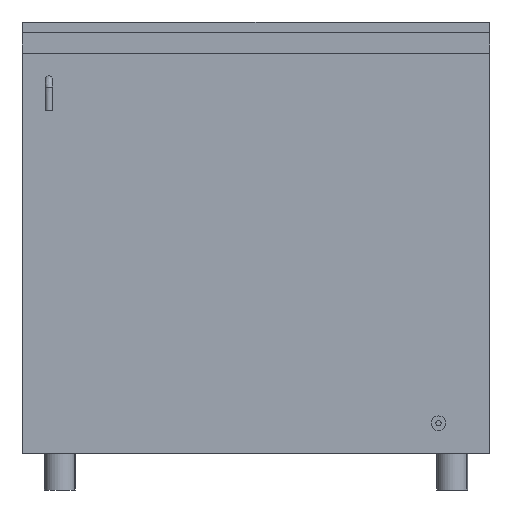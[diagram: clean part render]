
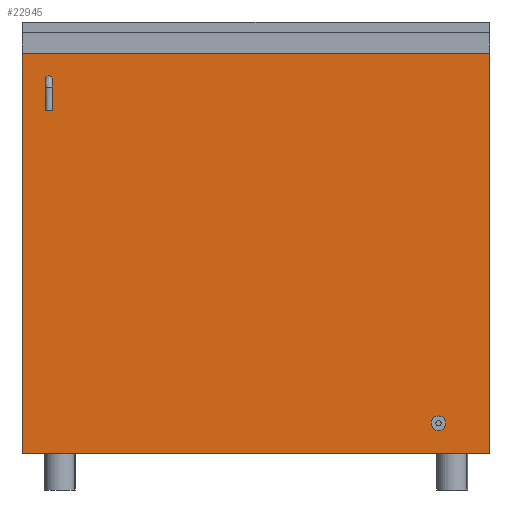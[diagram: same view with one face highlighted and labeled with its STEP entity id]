
A CAD part, left-side view. The second image highlights one B-rep face of the part: STEP entity #22945.
In plain terms, the highlighted planar face has unit normal (-1, 0, 0).
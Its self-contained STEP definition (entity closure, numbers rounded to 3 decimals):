
#2461=LINE('',#52559,#4366);
#2472=LINE('',#52654,#4377);
#2473=LINE('',#52656,#4378);
#2474=LINE('',#52657,#4379);
#4366=VECTOR('',#30176,1000.);
#4377=VECTOR('',#30257,1000.);
#4378=VECTOR('',#30260,1000.);
#4379=VECTOR('',#30261,1000.);
#5005=CIRCLE('',#25381,14.);
#10399=ORIENTED_EDGE('',*,*,#14646,.F.);
#10400=ORIENTED_EDGE('',*,*,#14645,.F.);
#10401=ORIENTED_EDGE('',*,*,#14647,.T.);
#10402=ORIENTED_EDGE('',*,*,#14608,.T.);
#10403=ORIENTED_EDGE('',*,*,#14648,.T.);
#10404=ORIENTED_EDGE('',*,*,#14649,.T.);
#10405=ORIENTED_EDGE('',*,*,#14650,.T.);
#10406=ORIENTED_EDGE('',*,*,#14651,.F.);
#14608=EDGE_CURVE('',#17170,#17169,#2461,.T.);
#14645=EDGE_CURVE('',#17194,#17193,#2472,.T.);
#14646=EDGE_CURVE('',#17193,#17169,#2473,.T.);
#14647=EDGE_CURVE('',#17194,#17170,#2474,.T.);
#14648=EDGE_CURVE('',#17195,#17196,#18263,.T.);
#14649=EDGE_CURVE('',#17196,#17197,#18264,.T.);
#14650=EDGE_CURVE('',#17197,#17195,#18265,.T.);
#14651=EDGE_CURVE('',#17198,#17198,#5005,.T.);
#17169=VERTEX_POINT('',#52558);
#17170=VERTEX_POINT('',#52560);
#17193=VERTEX_POINT('',#52651);
#17194=VERTEX_POINT('',#52653);
#17195=VERTEX_POINT('',#52665);
#17196=VERTEX_POINT('',#52666);
#17197=VERTEX_POINT('',#52672);
#17198=VERTEX_POINT('',#52679);
#18263=B_SPLINE_CURVE_WITH_KNOTS('',3,(#52658,#52659,#52660,#52661,#52662,
#52663,#52664),.UNSPECIFIED.,.F.,.F.,(4,1,1,1,4),(0.,5.503,11.006,
16.509,22.013),.UNSPECIFIED.);
#18264=B_SPLINE_CURVE_WITH_KNOTS('',3,(#52667,#52668,#52669,#52670,#52671),
 .UNSPECIFIED.,.F.,.F.,(4,1,4),(0.,5.52,11.039),
 .UNSPECIFIED.);
#18265=B_SPLINE_CURVE_WITH_KNOTS('',3,(#52673,#52674,#52675,#52676,#52677),
 .UNSPECIFIED.,.F.,.F.,(4,1,4),(0.,5.52,11.039),
 .UNSPECIFIED.);
#19354=EDGE_LOOP('',(#10399,#10400,#10401,#10402));
#19355=EDGE_LOOP('',(#10403,#10404,#10405));
#19356=EDGE_LOOP('',(#10406));
#20814=FACE_BOUND('',#19354,.T.);
#20815=FACE_BOUND('',#19355,.T.);
#20816=FACE_BOUND('',#19356,.T.);
#21810=PLANE('',#25380);
#22945=ADVANCED_FACE('',(#20814,#20815,#20816),#21810,.T.);
#25380=AXIS2_PLACEMENT_3D('',#52655,#30258,#30259);
#25381=AXIS2_PLACEMENT_3D('',#52678,#30262,#30263);
#30176=DIRECTION('',(0.,-1.,0.));
#30257=DIRECTION('',(0.,-1.,0.));
#30258=DIRECTION('',(-1.,0.,0.));
#30259=DIRECTION('',(0.,0.,-1.));
#30260=DIRECTION('',(0.,0.,-1.));
#30261=DIRECTION('',(0.,0.,-1.));
#30262=DIRECTION('',(-1.,0.,0.));
#30263=DIRECTION('',(0.,-1.,0.));
#52558=CARTESIAN_POINT('',(243.994,-14.,-836.412));
#52559=CARTESIAN_POINT('',(243.994,0.,-836.412));
#52560=CARTESIAN_POINT('',(243.994,884.,-836.412));
#52651=CARTESIAN_POINT('',(243.994,-14.,-68.012));
#52653=CARTESIAN_POINT('',(243.994,884.,-68.012));
#52654=CARTESIAN_POINT('',(243.994,0.,-68.012));
#52655=CARTESIAN_POINT('',(243.994,0.,-68.012));
#52656=CARTESIAN_POINT('',(243.994,-14.,-452.212));
#52657=CARTESIAN_POINT('',(243.994,884.,-452.212));
#52658=CARTESIAN_POINT('',(243.994,832.6,-125.212));
#52659=CARTESIAN_POINT('',(243.994,834.432,-125.211));
#52660=CARTESIAN_POINT('',(243.994,838.083,-123.697));
#52661=CARTESIAN_POINT('',(243.994,840.358,-118.212));
#52662=CARTESIAN_POINT('',(243.994,838.084,-112.728));
#52663=CARTESIAN_POINT('',(243.994,834.432,-111.213));
#52664=CARTESIAN_POINT('',(243.994,832.6,-111.212));
#52665=CARTESIAN_POINT('',(243.994,832.6,-125.212));
#52666=CARTESIAN_POINT('',(243.994,832.6,-111.212));
#52667=CARTESIAN_POINT('',(243.994,832.6,-111.212));
#52668=CARTESIAN_POINT('',(243.994,830.768,-111.212));
#52669=CARTESIAN_POINT('',(243.994,827.117,-112.728));
#52670=CARTESIAN_POINT('',(243.994,825.601,-116.38));
#52671=CARTESIAN_POINT('',(243.994,825.6,-118.212));
#52672=CARTESIAN_POINT('',(243.994,825.6,-118.212));
#52673=CARTESIAN_POINT('',(243.994,825.6,-118.212));
#52674=CARTESIAN_POINT('',(243.994,825.6,-120.044));
#52675=CARTESIAN_POINT('',(243.994,827.116,-123.695));
#52676=CARTESIAN_POINT('',(243.994,830.768,-125.212));
#52677=CARTESIAN_POINT('',(243.994,832.6,-125.212));
#52678=CARTESIAN_POINT('',(243.994,84.6,-778.212));
#52679=CARTESIAN_POINT('',(243.994,70.6,-778.212));
